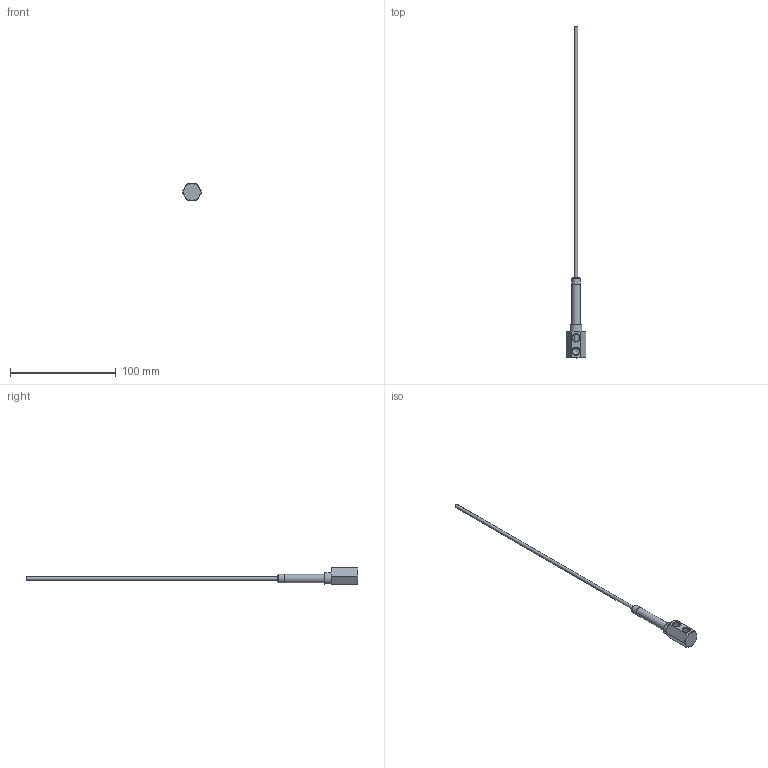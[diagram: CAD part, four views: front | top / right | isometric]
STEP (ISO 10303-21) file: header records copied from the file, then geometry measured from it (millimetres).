
FILE_DESCRIPTION(/* description */ (''),/* implementation_level */ '2;1');
FILE_NAME(/* name */ 'C:/Users/drich/Desktop/HF16N v1.step',/* time_stamp */ '2020-01-15T19:32:19-06:00',/* author */ (''),/* organization */ (''),/* preprocessor_version */ 'ST-DEVELOPER v18',/* originating_system */ 'Autodesk Translation Framework v8.12.0.6',/* authorisation */ '');
FILE_SCHEMA (('AUTOMOTIVE_DESIGN { 1 0 10303 214 3 1 1 }'));
Length unit declared in the file: inch
Products named in the file (4): HF16N; HF16H; SSPN16-2; HF125T-12
Assembly tree (3 placements, depth 2):
  HF16N
    HF16H
    SSPN16-2
    HF125T-12
Bounding box: 18.3 x 314.2 x 15.85 mm (x, y, z)
Volume: 6623.9 mm3; surface area: 10665.8 mm2
Topology: 3 solids, 3 shells, 47 faces, 119 edges, 80 vertices
Faces by surface type: plane 18, cylinder 15, cone 12, torus 2
Full cylindrical faces by diameter (mm): 2.769 x1, 3.175 x1, 4.064 x1, 4.727 x1, 4.801 x1, 5.309 x1, 6.697 x5, 7.874 x2, 7.925 x1, 11.1 x1
Entity records: 1605 total; most frequent: CARTESIAN_POINT 313, DIRECTION 277, ORIENTED_EDGE 234, AXIS2_PLACEMENT_3D 122, EDGE_CURVE 117, VERTEX_POINT 80, CIRCLE 62, EDGE_LOOP 59
